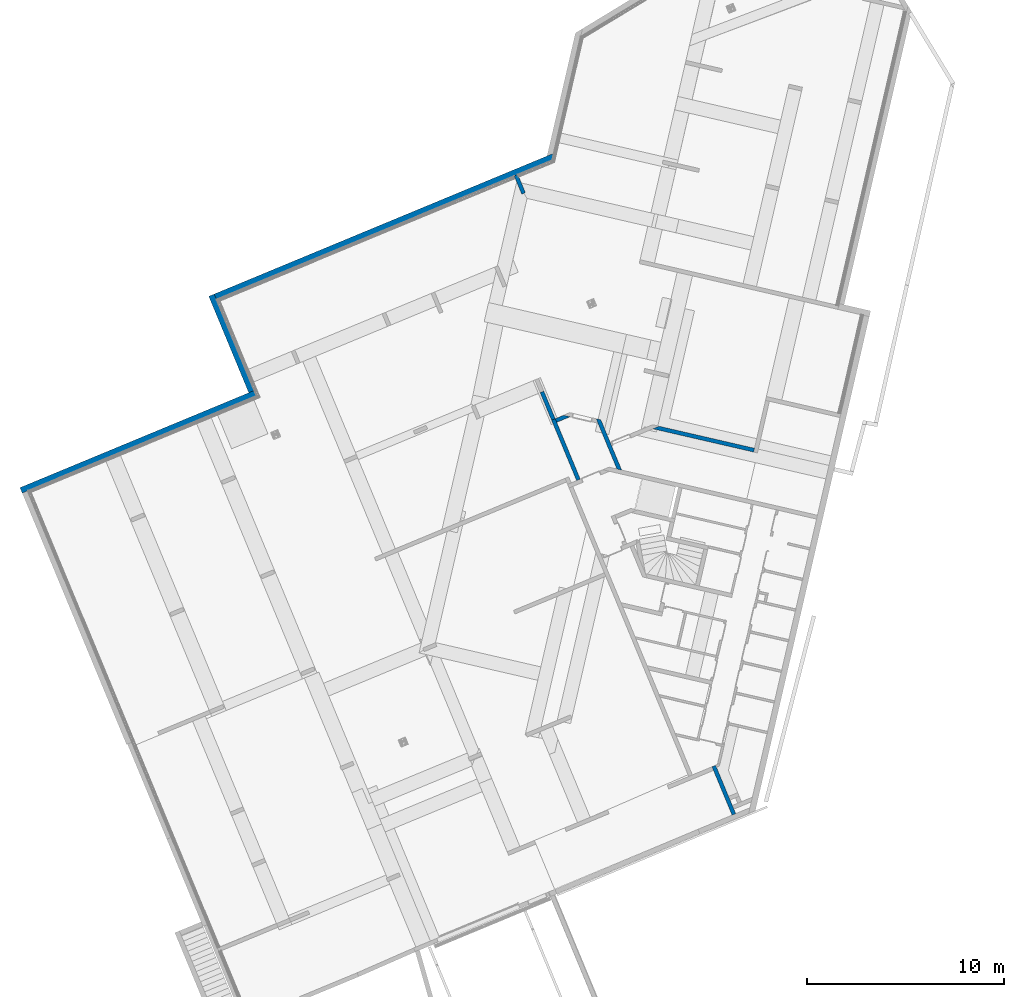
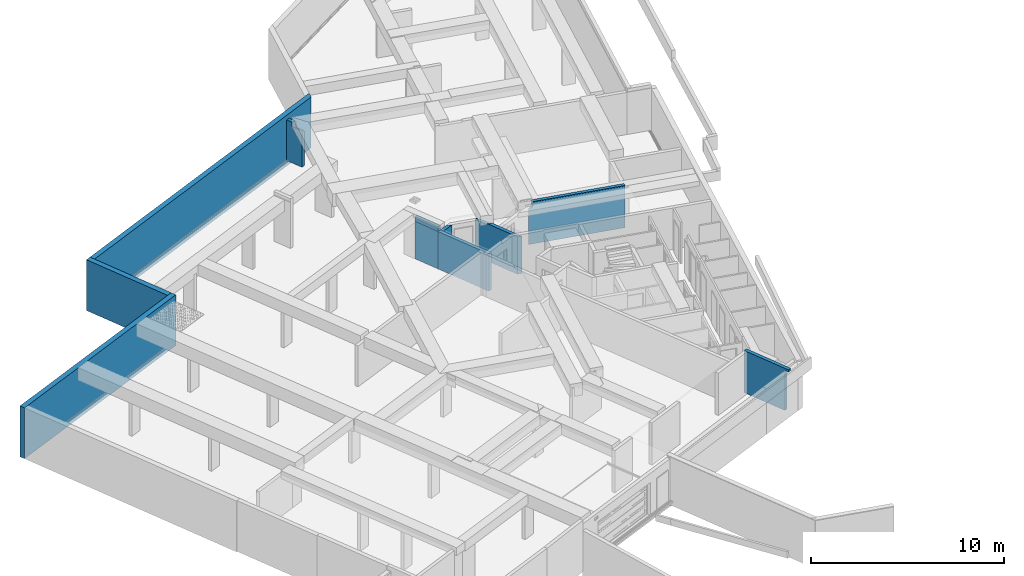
# One storey, part 10 of 20: 11 walls.
"""IFC2X3 building model written with IfcOpenShell, lengths in metres."""

from ifc_helpers import new_model, entity, si_unit, converted_unit, derived_unit, money_unit, direction, frame, origin_with_axes, place, context, subcontext, project, spatial, faceted_brep, material, type_object, element, save


model = new_model("IFC2X3")

# Units and contexts
model_context = context("Model", 3, precision=1e-05, world=origin_with_axes(), true_north=direction((0.0, 1.0)))
body_context = subcontext(model_context, "Body", "Model", "MODEL_VIEW")
ifc_project = project(units=[si_unit("LENGTHUNIT", "METRE"), si_unit("AREAUNIT", "SQUARE_METRE"), si_unit("VOLUMEUNIT", "CUBIC_METRE"), converted_unit("PLANEANGLEUNIT", "DEGREE", entity("IfcPlaneAngleMeasure", 0.0174532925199), si_unit("PLANEANGLEUNIT", "RADIAN"), dimensions=[0, 0, 0, 0, 0, 0, 0]), si_unit("SOLIDANGLEUNIT", "STERADIAN"), money_unit("EUR"), converted_unit("TIMEUNIT", "Year", entity("IfcTimeMeasure", 31556926.0), si_unit("TIMEUNIT", "SECOND"), dimensions=[0, 0, 1, 0, 0, 0, 0]), si_unit("MASSUNIT", "GRAM", prefix="KILO"), si_unit("THERMODYNAMICTEMPERATUREUNIT", "DEGREE_CELSIUS"), si_unit("LUMINOUSINTENSITYUNIT", "LUMEN"), si_unit("ENERGYUNIT", "JOULE", prefix="MEGA"), derived_unit("THERMALCONDUCTANCEUNIT", [(si_unit("POWERUNIT", "WATT"), 1), (si_unit("LENGTHUNIT", "METRE"), -1), (si_unit("THERMODYNAMICTEMPERATUREUNIT", "KELVIN"), -1)]), derived_unit("SPECIFICHEATCAPACITYUNIT", [(si_unit("ENERGYUNIT", "JOULE"), 1), (si_unit("MASSUNIT", "GRAM", prefix="KILO"), -1), (si_unit("THERMODYNAMICTEMPERATUREUNIT", "KELVIN"), -1)]), derived_unit("MASSDENSITYUNIT", [(si_unit("MASSUNIT", "GRAM", prefix="KILO"), 1), (si_unit("VOLUMEUNIT", "CUBIC_METRE"), -1)])], contexts=[model_context])

# Site, building, storey
site_placement = place(None, origin_with_axes())
site = spatial("IfcSite", under=ifc_project, at=site_placement, Name="Site", CompositionType="ELEMENT")
building_placement = place(site_placement, origin_with_axes())
building = spatial("IfcBuilding", under=site, at=building_placement, Name="Bâtiment", CompositionType="ELEMENT")
storey_placement = place(building_placement, frame((0.0, 0.0, -2.9), z_axis=(0.0, 0.0, 1.0), x_axis=(1.0, 0.0, 0.0)))
storey = spatial("IfcBuildingStorey", under=building, at=storey_placement, Name="Sous-sol", CompositionType="ELEMENT", Elevation=-2.9)

# Walls
ifc_material_1 = material(Name="Béton")
wall_type_1 = type_object("IfcWallType", Name="Béton 200", PredefinedType="USERDEFINED")
wall_1_placement = place(storey_placement, frame((-4.40078641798, -21.6846254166, 0.0), z_axis=(0.0, 0.0, 1.0), x_axis=(-0.383112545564, 0.923701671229, 0.0)))
element("IfcWall", 1, at=wall_1_placement, inside=storey, type_object=wall_type_1, material=ifc_material_1, Name="M_Ext-007", ObjectType="SOLIDWALL", context=body_context, shape_type="Brep", body=[
    faceted_brep([(0.0, 0.0, 2.67), (0.0, 0.2, 2.67), (0.0, 0.2, 2.53), (0.0, 0.0, 2.53), (2.90000000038, 0.0, 2.67), (2.90000000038, 0.2, 2.67), (2.90000000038, 0.2, 0.0), (0.235000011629, 0.2, 0.0), (0.235000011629, 0.2, 2.53), (0.235000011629, 0.0, 2.53), (0.235000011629, 0.0, 0.0), (2.90000000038, 0.0, 0.0)], [[[0, 1, 2, 3]], [[1, 0, 4, 5]], [[6, 7, 8, 2, 1, 5]], [[2, 8, 9, 3]], [[0, 3, 9, 10, 11, 4]], [[5, 4, 11, 6]], [[6, 11, 10, 7]], [[8, 7, 10, 9]]]),
])
wall_2_placement = place(storey_placement, frame((-12.3238344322, -4.62952032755, 0.0), z_axis=(0.0, 0.0, 1.0), x_axis=(-0.383112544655, 0.923701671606, 0.0)))
element("IfcWall", 2, at=wall_2_placement, inside=storey, type_object=wall_type_1, material=ifc_material_1, Name="M_Ext-007", ObjectType="SOLIDWALL", context=body_context, shape_type="Brep", body=[
    faceted_brep([(3.52729953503, 0.2, 0.0), (3.52729953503, 0.0, 0.0), (0.2, 0.0, 0.0), (0.199999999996, 0.2, 0.0), (3.52729953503, 0.2, 2.37), (3.52729953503, 0.0, 2.37), (0.2, 0.0, 2.37), (0.199999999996, 0.2, 2.37)], [[[0, 1, 2, 3]], [[0, 4, 5, 1]], [[1, 5, 6, 2]], [[6, 7, 3, 2]], [[4, 0, 3, 7]], [[5, 4, 7, 6]]]),
])
wall_3_placement = place(storey_placement, frame((-11.5932562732, -1.37314826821, 0.0), z_axis=(0.0, 0.0, 1.0), x_axis=(0.383112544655, -0.923701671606, 0.0)))
element("IfcWall", 3, at=wall_3_placement, inside=storey, type_object=wall_type_1, material=ifc_material_1, Name="M_Ext-007", ObjectType="SOLIDWALL", context=body_context, shape_type="Brep", body=[
    faceted_brep([(0.142775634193, 0.2, 0.0), (0.142775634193, 0.2, 2.3), (0.926588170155, 0.2, 2.3), (0.926588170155, 0.2, 2.37), (2.91061620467, 0.2, 2.37), (2.91061620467, 0.2, 0.0), (0.0612449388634, 0.08579186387, 2.37), (0.0612449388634, 0.08579186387, 2.3), (0.0, 0.0, 0.0), (0.0, 0.0, 2.37), (0.78381253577, 0.0, 2.3), (0.181422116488, 0.0, 2.3), (0.78381253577, 0.0, 2.37), (2.76784057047, 0.0, 2.37), (2.76784057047, 0.0, 0.0), (0.181422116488, 0.0, 2.37)], [[[0, 1, 2, 3, 4, 5]], [[6, 7, 1, 0, 8, 9]], [[10, 2, 1, 7, 11]], [[10, 12, 3, 2]], [[4, 3, 12, 13]], [[4, 13, 14, 5]], [[8, 0, 5, 14]], [[11, 7, 6, 15]], [[10, 11, 15, 9, 8, 14, 13, 12]], [[9, 15, 6]]]),
])
wall_4_placement = place(storey_placement, frame((-13.6751871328, -1.37134785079, 0.0), z_axis=(0.0, 0.0, 1.0), x_axis=(0.923701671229, 0.383112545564, 0.0)))
element("IfcWall", 4, at=wall_4_placement, inside=storey, type_object=wall_type_1, material=ifc_material_1, Name="M_Ext-007", ObjectType="SOLIDWALL", context=body_context, shape_type="Brep", body=[
    faceted_brep([(0.738703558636, -0.2, 2.37), (0.458543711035, 0.0, 2.37), (0.0, 0.0, 2.37), (-1.96751059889e-10, -0.2, 2.37), (0.738703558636, -0.2, 0.0), (0.458543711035, 0.0, 0.0), (0.0, 0.0, 0.0), (-1.96751059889e-10, -0.2, 0.0)], [[[0, 1, 2, 3]], [[4, 5, 1, 0]], [[1, 5, 6, 2]], [[2, 6, 7, 3]], [[4, 0, 3, 7]], [[5, 4, 7, 6]]]),
])
wall_5_placement = place(storey_placement, frame((-15.5761296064, 11.0552082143, 0.0), z_axis=(0.0, 0.0, 1.0), x_axis=(0.383113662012, -0.923701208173, 0.0)))
element("IfcWall", 5, at=wall_5_placement, inside=storey, type_object=wall_type_1, material=ifc_material_1, Name="M_Ext-007", ObjectType="SOLIDWALL", context=body_context, shape_type="Brep", body=[
    faceted_brep([(0.326591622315, -0.196759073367, 2.2), (0.326591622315, -0.196759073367, 2.3), (1.0, -0.0843383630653, 2.3), (1.0, -0.0843383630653, 2.2), (0.467053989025, 0.0, 2.58), (0.326591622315, -0.196759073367, 2.58), (0.467053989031, 0.0, 2.2), (0.331131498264, -0.2, 2.3), (1.0, -0.2, 2.3), (1.0, -0.2, 0.0), (1.0, 0.0, 0.0), (1.0, 0.0, 2.2), (6.10629179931e-06, -0.199999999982, 2.58), (0.331131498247, -0.199999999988, 2.58), (5.52120091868e-06, 0.0, 2.58), (0.0, 0.0, 0.0), (0.0, -0.2, 0.0)], [[[0, 1, 2, 3]], [[4, 5, 1, 0, 6]], [[7, 8, 2, 1]], [[3, 2, 8, 9, 10, 11]], [[0, 3, 11, 6]], [[12, 13, 5, 4, 14]], [[7, 1, 5, 13]], [[14, 4, 6, 11, 10, 15]], [[8, 7, 13, 12, 16, 9]], [[9, 16, 15, 10]], [[15, 16, 12, 14]]]),
])
wall_6_placement = place(storey_placement, frame((-8.72173868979, -1.67665791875, 0.0), z_axis=(0.0, 0.0, 1.0), x_axis=(0.974387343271, -0.224876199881, 0.0)))
element("IfcWall", 6, at=wall_6_placement, inside=storey, type_object=wall_type_1, material=ifc_material_1, Name="M_Ext-007", ObjectType="SOLIDWALL", context=body_context, shape_type="Brep", body=[
    faceted_brep([(0.344223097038, 0.0, 2.37), (0.275127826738, 0.0, 2.37), (0.275127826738, 0.0, 2.67), (5.3238040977, 0.0, 2.67), (5.3238040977, 0.0, 2.37), (5.3238040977, 0.0, 0.0), (0.344223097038, 0.0, 0.0), (0.275127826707, -0.0493256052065, 2.37), (0.275127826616, -0.192718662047, 2.62), (0.275127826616, -0.192718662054, 2.67), (0.275127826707, -0.0493256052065, 2.3), (0.275127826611, -0.2, 2.3), (0.275127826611, -0.2, 2.62), (5.32370775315, -0.192718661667, 2.67), (5.3238040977, -0.192718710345, 2.67), (5.32380409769, -0.192718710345, 2.62), (5.3238040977, -0.2, 2.62), (5.32380409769, -0.2, 2.37), (5.32380409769, -0.2, 0.0), (0.0640632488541, -0.2, 0.0), (0.0640632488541, -0.2, 2.3), (5.32370775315, -0.192718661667, 2.62)], [[[0, 1, 2, 3, 4, 5, 6]], [[0, 7, 1]], [[8, 9, 2, 1, 7, 10, 11, 12]], [[3, 2, 9, 13, 14]], [[3, 14, 15, 16, 17, 4]], [[4, 17, 18, 5]], [[6, 5, 18, 19]], [[20, 10, 7, 0, 6, 19]], [[13, 9, 8, 21]], [[11, 10, 20]], [[12, 11, 20, 19, 18, 17, 16]], [[21, 8, 12, 16, 15]], [[13, 21, 15, 14]]]),
])
wall_type_2 = type_object("IfcWallType", Name="Béton 300", PredefinedType="USERDEFINED")
wall_7_placement = place(storey_placement, frame((-30.9110132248, 4.69492269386, -0.35), z_axis=(0.0, 0.0, 1.0), x_axis=(0.923701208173, 0.383113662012, 0.0)))
element("IfcWall", 7, at=wall_7_placement, inside=storey, type_object=wall_type_2, material=ifc_material_1, Name="Voile projeté béton par passes alternées", ObjectType="SOLIDWALL", context=body_context, shape_type="Brep", body=[
    faceted_brep([(0.0, 0.0, 0.0), (-2.42320297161e-08, 0.3, 0.0), (18.7030236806, 0.3, 0.0), (18.4888596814, 0.0, 0.0), (0.0, 0.0, 3.22), (-2.42320297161e-08, 0.3, 3.22), (18.7030236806, 0.3, 3.22), (18.4888596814, 0.0, 3.22)], [[[0, 1, 2, 3]], [[0, 4, 5, 1]], [[1, 5, 6, 2]], [[6, 7, 3, 2]], [[4, 0, 3, 7]], [[5, 4, 7, 6]]]),
])
wall_8_placement = place(storey_placement, frame((-28.8756217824, -0.212480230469, -0.35), z_axis=(0.0, 0.0, 1.0), x_axis=(-0.383113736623, 0.923701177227, 0.0)))
element("IfcWall", 8, at=wall_8_placement, inside=storey, type_object=wall_type_2, material=ifc_material_1, Name="Voile projeté béton par passes alternées", ObjectType="SOLIDWALL", context=body_context, shape_type="Brep", body=[
    faceted_brep([(0.30000038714, 0.3, 0.0), (5.61276030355, 0.3, 0.0), (5.61276027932, 0.0, 0.0), (0.3, 0.0, 0.0), (0.30000038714, 0.3, 3.22), (5.61276030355, 0.3, 3.22), (5.61276027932, 0.0, 3.22), (0.3, 0.0, 3.22)], [[[0, 1, 2, 3]], [[4, 5, 1, 0]], [[6, 2, 1, 5]], [[3, 2, 6, 7]], [[7, 4, 0, 3]], [[7, 6, 5, 4]]]),
])
wall_9_placement = place(storey_placement, frame((-40.5172807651, -5.0409499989, -0.35), z_axis=(0.0, 0.0, 1.0), x_axis=(0.923701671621, 0.383112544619, 0.0)))
element("IfcWall", 9, at=wall_9_placement, inside=storey, type_object=wall_type_2, material=ifc_material_1, Name="Voile projeté béton par passes alternées", ObjectType="SOLIDWALL", context=body_context, shape_type="Brep", body=[
    faceted_brep([(-0.300000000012, 0.3, 0.0), (12.6032668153, 0.3, 0.0), (12.6032672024, 0.0, 0.0), (-0.3, 0.0, 0.0), (-0.300000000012, 0.3, 3.22), (12.6032668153, 0.3, 3.22), (12.6032672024, 0.0, 3.22), (-0.3, 0.0, 3.22)], [[[0, 1, 2, 3]], [[4, 5, 1, 0]], [[6, 2, 1, 5]], [[3, 2, 6, 7]], [[7, 4, 0, 3]], [[7, 6, 5, 4]]]),
])
ifc_material_2 = material(Name="Parpaing 20cm")
wall_type_3 = type_object("IfcWallType", Name="Parpaing 20cm 200", PredefinedType="STANDARD")
wall_10_placement = place(storey_placement, frame((-14.2571261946, 0.0317335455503, 0.0), z_axis=(0.0, 0.0, 1.0), x_axis=(0.383112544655, -0.923701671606, 0.0)))
element("IfcWall", 10, at=wall_10_placement, inside=storey, type_object=wall_type_3, material=ifc_material_2, Name="M_Ext-007", ObjectType="STANDARD", context=body_context, shape_type="Brep", body=[
    faceted_brep([(0.0, 0.0, 2.37), (0.0, -0.2, 2.37), (1.51897678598, -0.2, 2.37), (1.51897678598, 0.0, 2.37), (0.0, 0.0, 0.0), (0.0, -0.2, 0.0), (1.51897678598, -0.2, 0.0), (1.51897678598, 0.0, 0.0)], [[[0, 1, 2, 3]], [[4, 5, 1, 0]], [[1, 5, 6, 2]], [[7, 3, 2, 6]], [[4, 0, 3, 7]], [[5, 4, 7, 6]]]),
])
wall_11_placement = place(storey_placement, frame((-13.859927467, -1.4479703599, 0.0), z_axis=(0.0, 0.0, 1.0), x_axis=(-0.383112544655, 0.923701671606, 0.0)))
element("IfcWall", 11, at=wall_11_placement, inside=storey, type_object=wall_type_3, material=ifc_material_2, Name="M_Ext-009", ObjectType="STANDARD", context=body_context, shape_type="Brep", body=[
    faceted_brep([(1.51897678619, -0.2, 2.67), (1.51897678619, 0.0, 2.67), (0.0, 0.0, 2.67), (0.0, -0.2, 2.67), (1.51897678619, -0.2, 0.0), (1.51897678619, 0.0, 0.0), (0.0, 0.0, 0.0), (0.0, -0.2, 0.0)], [[[0, 1, 2, 3]], [[0, 4, 5, 1]], [[1, 5, 6, 2]], [[3, 2, 6, 7]], [[4, 0, 3, 7]], [[5, 4, 7, 6]]]),
])

save(model, "model.ifc")
